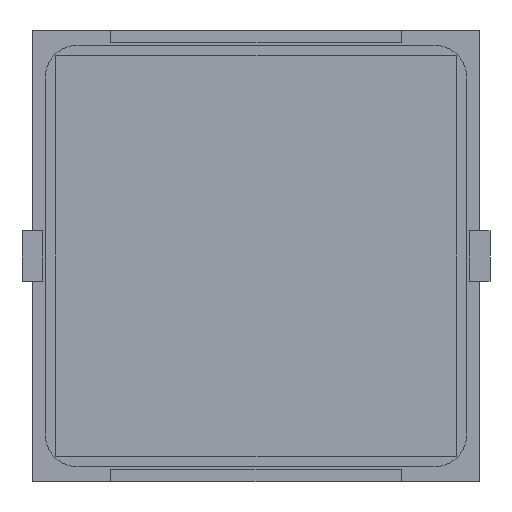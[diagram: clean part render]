
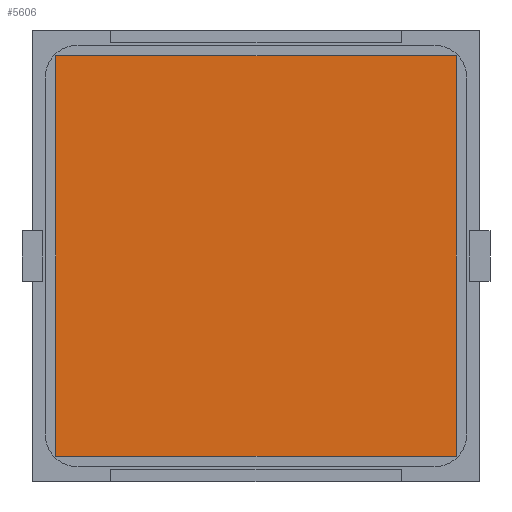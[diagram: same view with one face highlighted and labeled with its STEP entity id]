
A CAD part, front view. The second image highlights one B-rep face of the part: STEP entity #5606.
In plain terms, the highlighted planar face has unit normal (0, -1, 0).
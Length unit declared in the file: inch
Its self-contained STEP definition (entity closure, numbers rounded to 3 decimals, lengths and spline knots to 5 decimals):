
#320 = DIRECTION ( 'NONE',  ( -1., 0., 0. ) ) ;
#932 = LINE ( 'NONE', #8606, #9227 ) ;
#943 = DIRECTION ( 'NONE',  ( 0., -1., 0. ) ) ;
#1096 = EDGE_LOOP ( 'NONE', ( #7622, #3517, #5456, #3576 ) ) ;
#1296 = DIRECTION ( 'NONE',  ( 1., 0., 0. ) ) ;
#2001 = CARTESIAN_POINT ( 'NONE',  ( 0.7874, -0.005, 0.7874 ) ) ;
#2045 = CARTESIAN_POINT ( 'NONE',  ( 0.7874, -0.005, -0.7874 ) ) ;
#2317 = DIRECTION ( 'NONE',  ( 0., 0., -1. ) ) ;
#2415 = VERTEX_POINT ( 'NONE', #3123 ) ;
#2728 = EDGE_CURVE ( 'NONE', #4727, #11047, #9910, .T. ) ;
#3123 = CARTESIAN_POINT ( 'NONE',  ( 0.7874, -0.005, 0.7874 ) ) ;
#3517 = ORIENTED_EDGE ( 'NONE', *, *, #6874, .T. ) ;
#3576 = ORIENTED_EDGE ( 'NONE', *, *, #2728, .T. ) ;
#4126 = LINE ( 'NONE', #7961, #6644 ) ;
#4192 = DIRECTION ( 'NONE',  ( 0., 0., 1. ) ) ;
#4397 = VERTEX_POINT ( 'NONE', #6298 ) ;
#4727 = VERTEX_POINT ( 'NONE', #9382 ) ;
#4871 = FACE_OUTER_BOUND ( 'NONE', #1096, .T. ) ;
#5456 = ORIENTED_EDGE ( 'NONE', *, *, #12392, .T. ) ;
#5606 = ADVANCED_FACE ( 'NONE', ( #4871 ), #8618, .T. ) ;
#6298 = CARTESIAN_POINT ( 'NONE',  ( -0.7874, -0.005, 0.7874 ) ) ;
#6644 = VECTOR ( 'NONE', #4192, 39.37008 ) ;
#6874 = EDGE_CURVE ( 'NONE', #2415, #4397, #8907, .T. ) ;
#7335 = CARTESIAN_POINT ( 'NONE',  ( 0.7874, -0.005, -0.7874 ) ) ;
#7622 = ORIENTED_EDGE ( 'NONE', *, *, #9256, .T. ) ;
#7961 = CARTESIAN_POINT ( 'NONE',  ( 0.7874, -0.005, -0.7874 ) ) ;
#8606 = CARTESIAN_POINT ( 'NONE',  ( -0.7874, -0.005, -0.7874 ) ) ;
#8618 = PLANE ( 'NONE',  #11775 ) ;
#8874 = DIRECTION ( 'NONE',  ( 0., 0., 1. ) ) ;
#8907 = LINE ( 'NONE', #11806, #11909 ) ;
#9227 = VECTOR ( 'NONE', #2317, 39.37008 ) ;
#9256 = EDGE_CURVE ( 'NONE', #11047, #2415, #4126, .T. ) ;
#9382 = CARTESIAN_POINT ( 'NONE',  ( -0.7874, -0.005, -0.7874 ) ) ;
#9910 = LINE ( 'NONE', #2045, #12203 ) ;
#11047 = VERTEX_POINT ( 'NONE', #7335 ) ;
#11775 = AXIS2_PLACEMENT_3D ( 'NONE', #2001, #943, #8874 ) ;
#11806 = CARTESIAN_POINT ( 'NONE',  ( 0.7874, -0.005, 0.7874 ) ) ;
#11909 = VECTOR ( 'NONE', #320, 39.37008 ) ;
#12203 = VECTOR ( 'NONE', #1296, 39.37008 ) ;
#12392 = EDGE_CURVE ( 'NONE', #4397, #4727, #932, .T. ) ;
